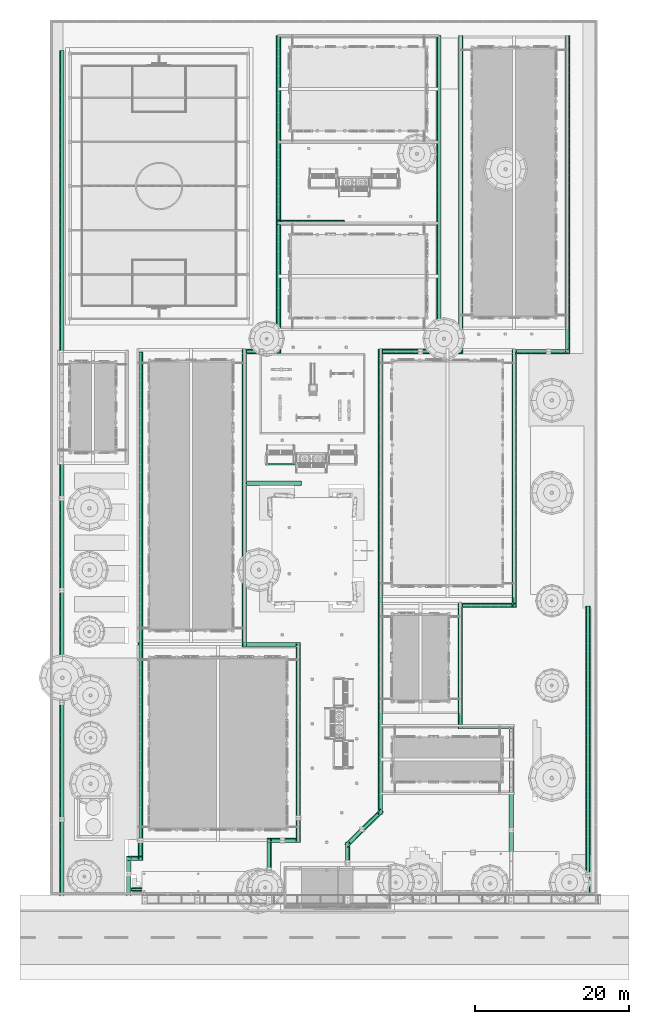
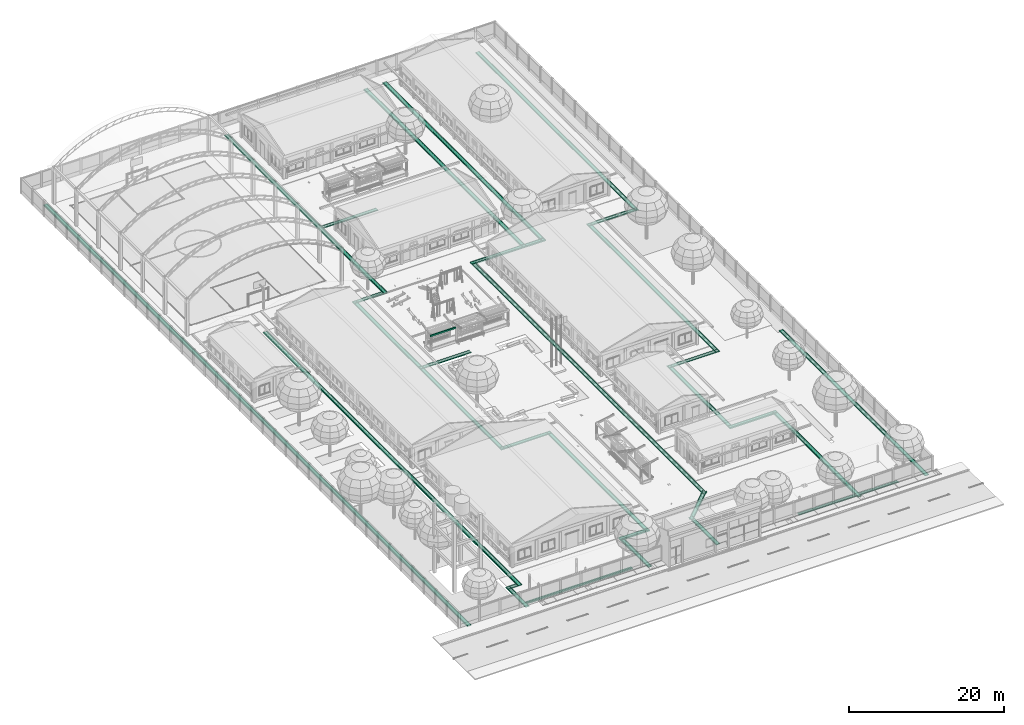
# One storey, part 98 of 166: 3 flow segments.
"""IFC2X3 building model written with IfcOpenShell, lengths in metres."""

from ifc_helpers import new_model, si_unit, origin, origin_with_axes, place, context, subcontext, project, spatial, faceted_brep, element, save


model = new_model("IFC2X3")

# Units and contexts
model_context = context("Model", 3, precision=1e-05, world=origin_with_axes())
body_context = subcontext(model_context, "Body", "Model", "MODEL_VIEW")
ifc_project = project(units=[si_unit("LENGTHUNIT", "METRE"), si_unit("AREAUNIT", "SQUARE_METRE"), si_unit("VOLUMEUNIT", "CUBIC_METRE"), si_unit("PLANEANGLEUNIT", "RADIAN")], contexts=[model_context])

# Site, building, storey
site_placement = place(None, origin_with_axes())
site = spatial("IfcSite", under=ifc_project, at=site_placement, Name="Predio Los Mangos - Morales, San Martín", CompositionType="ELEMENT")
building_placement = place(site_placement, origin())
building = spatial("IfcBuilding", under=site, at=building_placement, Name="Hogar de Refugio Temporal", CompositionType="ELEMENT")
storey_placement = place(building_placement, origin())
storey = spatial("IfcBuildingStorey", under=building, at=storey_placement, Name="NIVEL 1 (NPT +0.00)", CompositionType="ELEMENT", Elevation=0.0)

# Flow segments
flow_segment_1_placement = place(storey_placement, origin())
element("IfcFlowSegment", 1, at=flow_segment_1_placement, inside=storey, Name="oc01_canaleta", ObjectType="Canaleta", context=body_context, shape_type="Brep", body=[
    faceted_brep([(32.695, 73.8, 2.49), (32.695, 73.62, 2.49), (28.905, 73.62, 2.49), (28.905, 73.8, 2.49), (32.695, 73.8, 2.71), (28.905, 73.8, 2.71), (28.905, 73.62, 2.71), (32.695, 73.62, 2.71)], [[[0, 1, 2, 3]], [[4, 5, 6, 7]], [[0, 3, 5, 4]], [[3, 2, 6, 5]], [[2, 1, 7, 6]], [[1, 0, 4, 7]]]),
])
flow_segment_2_placement = place(storey_placement, origin())
element("IfcFlowSegment", 2, at=flow_segment_2_placement, inside=storey, Name="cunetas_muros", ObjectType="Cuneta de concreto b=0.40", context=body_context, shape_type="Brep", body=[
    faceted_brep([(70.899, 55.35, -0.02), (70.999, 55.35, -0.02), (70.999, 17.54, -0.02), (70.899, 17.54, -0.02), (70.899, 55.35, 0.092), (70.899, 17.54, 0.092), (70.999, 17.54, 0.092), (70.999, 55.35, 0.092), (70.399, 55.35, -0.02), (70.499, 55.35, -0.02), (70.499, 17.54, -0.02), (70.399, 17.54, -0.02), (70.399, 55.35, 0.092), (70.399, 17.54, 0.092), (70.499, 17.54, 0.092), (70.499, 55.35, 0.092), (68.255, 129.32, -0.02), (68.355, 129.32, -0.02), (68.355, 88.022, -0.02), (68.255, 88.022, -0.02), (68.255, 129.32, 0.092), (68.255, 88.022, 0.092), (68.355, 88.022, 0.092), (68.355, 129.32, 0.092), (67.755, 129.32, -0.02), (67.855, 129.32, -0.02), (67.855, 88.022, -0.02), (67.755, 88.022, -0.02), (67.755, 129.32, 0.092), (67.755, 88.022, 0.092), (67.855, 88.022, 0.092), (67.855, 129.32, 0.092), (68.355, 88.122, -0.02), (68.355, 88.022, -0.02), (60.848, 88.022, -0.02), (60.848, 88.122, -0.02), (68.355, 88.122, 0.092), (60.848, 88.122, 0.092), (60.848, 88.022, 0.092), (68.355, 88.022, 0.092), (68.355, 88.622, -0.02), (68.355, 88.522, -0.02), (60.848, 88.522, -0.02), (60.848, 88.622, -0.02), (68.355, 88.622, 0.092), (60.848, 88.622, 0.092), (60.848, 88.522, 0.092), (68.355, 88.522, 0.092), (61.348, 88.622, -0.02), (61.448, 88.622, -0.02), (61.448, 55.099, -0.02), (61.348, 55.099, -0.02), (61.348, 88.622, 0.092), (61.348, 55.099, 0.092), (61.448, 55.099, 0.092), (61.448, 88.622, 0.092), (60.848, 88.622, -0.02), (60.948, 88.622, -0.02), (60.948, 55.099, -0.02), (60.848, 55.099, -0.02), (60.848, 88.622, 0.092), (60.848, 55.099, 0.092), (60.948, 55.099, 0.092), (60.948, 88.622, 0.092), (61.448, 55.199, -0.02), (61.448, 55.099, -0.02), (53.838, 55.099, -0.02), (53.838, 55.199, -0.02), (61.448, 55.199, 0.092), (53.838, 55.199, 0.092), (53.838, 55.099, 0.092), (61.448, 55.099, 0.092), (61.448, 55.699, -0.02), (61.448, 55.599, -0.02), (53.838, 55.599, -0.02), (53.838, 55.699, -0.02), (61.448, 55.699, 0.092), (53.838, 55.699, 0.092), (53.838, 55.599, 0.092), (61.448, 55.599, 0.092), (54.338, 55.699, -0.02), (54.438, 55.699, -0.02), (54.438, 39.344, -0.02), (54.338, 39.344, -0.02), (54.338, 55.699, 0.092), (54.338, 39.344, 0.092), (54.438, 39.344, 0.092), (54.438, 55.699, 0.092), (53.838, 55.699, -0.02), (53.938, 55.699, -0.02), (53.938, 39.344, -0.02), (53.838, 39.344, -0.02), (53.838, 55.699, 0.092), (53.838, 39.344, 0.092), (53.938, 39.344, 0.092), (53.938, 55.699, 0.092), (53.838, 39.844, -0.02), (53.838, 39.944, -0.02), (61.037, 39.944, -0.02), (61.037, 39.844, -0.02), (53.838, 39.844, 0.158), (61.037, 39.844, 0.158), (61.037, 39.944, 0.158), (53.838, 39.944, 0.158), (53.838, 39.344, -0.02), (53.838, 39.444, -0.02), (61.037, 39.444, -0.02), (61.037, 39.344, -0.02), (53.838, 39.344, 0.158), (61.037, 39.344, 0.158), (61.037, 39.444, 0.158), (53.838, 39.444, 0.158), (60.937, 39.944, -0.02), (61.037, 39.944, -0.02), (61.037, 17.7, -0.02), (60.937, 17.7, -0.02), (60.937, 39.944, 0.158), (60.937, 17.7, 0.158), (61.037, 17.7, 0.158), (61.037, 39.944, 0.158), (60.437, 39.944, -0.02), (60.537, 39.944, -0.02), (60.537, 17.7, -0.02), (60.437, 17.7, -0.02), (60.437, 39.944, 0.158), (60.437, 17.7, 0.158), (60.537, 17.7, 0.158), (60.537, 39.944, 0.158), (54.372, 129.32, -0.02), (54.472, 129.32, -0.02), (54.472, 88.036, -0.02), (54.372, 88.036, -0.02), (54.372, 129.32, 0.158), (54.372, 88.036, 0.158), (54.472, 88.036, 0.158), (54.472, 129.32, 0.158), (53.872, 129.32, -0.02), (53.972, 129.32, -0.02), (53.972, 88.036, -0.02), (53.872, 88.036, -0.02), (53.872, 129.32, 0.158), (53.872, 88.036, 0.158), (53.972, 88.036, 0.158), (53.972, 129.32, 0.158), (54.472, 88.136, -0.02), (54.472, 88.036, -0.02), (51.1, 88.036, -0.02), (51.1, 88.136, -0.02), (54.472, 88.136, 0.158), (51.1, 88.136, 0.158), (51.1, 88.036, 0.158), (54.472, 88.036, 0.158), (54.472, 88.636, -0.02), (54.472, 88.536, -0.02), (51.1, 88.536, -0.02), (51.1, 88.636, -0.02), (54.472, 88.636, 0.158), (51.1, 88.636, 0.158), (51.1, 88.536, 0.158), (54.472, 88.536, 0.158), (51.542, 129.32, -0.02), (51.642, 129.32, -0.02), (51.642, 88.036, -0.02), (51.542, 88.036, -0.02), (51.542, 129.32, 0.158), (51.542, 88.036, 0.158), (51.642, 88.036, 0.158), (51.642, 129.32, 0.158), (51.042, 129.32, -0.02), (51.142, 129.32, -0.02), (51.142, 88.036, -0.02), (51.042, 88.036, -0.02), (51.042, 129.32, 0.158), (51.042, 88.036, 0.158), (51.142, 88.036, 0.158), (51.142, 129.32, 0.158), (51.642, 88.136, -0.02), (51.642, 88.036, -0.02), (43.455, 88.036, -0.02), (43.455, 88.136, -0.02), (51.642, 88.136, 0.158), (43.455, 88.136, 0.158), (43.455, 88.036, 0.158), (51.642, 88.036, 0.158), (51.642, 88.636, -0.02), (51.642, 88.536, -0.02), (43.455, 88.536, -0.02), (43.455, 88.636, -0.02), (51.642, 88.636, 0.158), (43.455, 88.636, 0.158), (43.455, 88.536, 0.158), (51.642, 88.536, 0.158), (43.955, 88.636, -0.02), (44.055, 88.636, -0.02), (44.055, 28.3, -0.02), (43.955, 28.3, -0.02), (43.955, 88.636, 0.092), (43.955, 28.3, 0.092), (44.055, 28.3, 0.092), (44.055, 88.636, 0.092), (43.455, 88.636, -0.02), (43.555, 88.636, -0.02), (43.555, 28.3, -0.02), (43.455, 28.3, -0.02), (43.455, 88.636, 0.092), (43.455, 28.3, 0.092), (43.555, 28.3, 0.092), (43.555, 88.636, 0.092), (44.1089, 28.669, -0.02), (44.1793, 28.5979, -0.02), (39.5119, 23.9757, -0.02), (39.4416, 24.0468, -0.02), (44.1089, 28.669, 0.092), (39.4416, 24.0468, 0.092), (39.5119, 23.9757, 0.092), (44.1793, 28.5979, 0.092), (43.7571, 29.0243, -0.02), (43.8274, 28.9532, -0.02), (39.1601, 24.331, -0.02), (39.0897, 24.4021, -0.02), (43.7571, 29.0243, 0.092), (39.0897, 24.4021, 0.092), (39.1601, 24.331, 0.092), (43.8274, 28.9532, 0.092), (39.714, 24.7, -0.02), (39.814, 24.7, -0.02), (39.814, 17.54, -0.02), (39.714, 17.54, -0.02), (39.714, 24.7, 0.092), (39.714, 17.54, 0.092), (39.814, 17.54, 0.092), (39.814, 24.7, 0.092), (39.214, 24.7, -0.02), (39.314, 24.7, -0.02), (39.314, 17.54, -0.02), (39.214, 17.54, -0.02), (39.214, 24.7, 0.092), (39.214, 17.54, 0.092), (39.314, 17.54, 0.092), (39.314, 24.7, 0.092), (30.734, 129.32, -0.02), (30.834, 129.32, -0.02), (30.834, 88.036, -0.02), (30.734, 88.036, -0.02), (30.734, 129.32, 0.158), (30.734, 88.036, 0.158), (30.834, 88.036, 0.158), (30.834, 129.32, 0.158), (30.234, 129.32, -0.02), (30.334, 129.32, -0.02), (30.334, 88.036, -0.02), (30.234, 88.036, -0.02), (30.234, 129.32, 0.158), (30.234, 88.036, 0.158), (30.334, 88.036, 0.158), (30.334, 129.32, 0.158), (30.834, 88.136, -0.02), (30.834, 88.036, -0.02), (25.809, 88.036, -0.02), (25.809, 88.136, -0.02), (30.834, 88.136, 0.092), (25.809, 88.136, 0.092), (25.809, 88.036, 0.092), (30.834, 88.036, 0.092), (30.834, 88.636, -0.02), (30.834, 88.536, -0.02), (25.809, 88.536, -0.02), (25.809, 88.636, -0.02), (30.834, 88.636, 0.092), (25.809, 88.636, 0.092), (25.809, 88.536, 0.092), (30.834, 88.536, 0.092), (26.309, 88.636, -0.02), (26.409, 88.636, -0.02), (26.409, 49.993, -0.02), (26.309, 49.993, -0.02), (26.309, 88.636, 0.092), (26.309, 49.993, 0.092), (26.409, 49.993, 0.092), (26.409, 88.636, 0.092), (25.809, 88.636, -0.02), (25.909, 88.636, -0.02), (25.909, 49.993, -0.02), (25.809, 49.993, -0.02), (25.809, 88.636, 0.092), (25.809, 49.993, 0.092), (25.909, 49.993, 0.092), (25.909, 88.636, 0.092), (25.809, 50.493, -0.02), (25.809, 50.593, -0.02), (33.42, 50.593, -0.02), (33.42, 50.493, -0.02), (25.809, 50.493, 0.092), (33.42, 50.493, 0.092), (33.42, 50.593, 0.092), (25.809, 50.593, 0.092), (25.809, 49.993, -0.02), (25.809, 50.093, -0.02), (33.42, 50.093, -0.02), (33.42, 49.993, -0.02), (25.809, 49.993, 0.092), (33.42, 49.993, 0.092), (33.42, 50.093, 0.092), (25.809, 50.093, 0.092), (33.32, 50.593, -0.02), (33.42, 50.593, -0.02), (33.42, 24.617, -0.02), (33.32, 24.617, -0.02), (33.32, 50.593, 0.092), (33.32, 24.617, 0.092), (33.42, 24.617, 0.092), (33.42, 50.593, 0.092), (32.82, 50.593, -0.02), (32.92, 50.593, -0.02), (32.92, 24.617, -0.02), (32.82, 24.617, -0.02), (32.82, 50.593, 0.092), (32.82, 24.617, 0.092), (32.92, 24.617, 0.092), (32.92, 50.593, 0.092), (33.42, 24.717, -0.02), (33.42, 24.617, -0.02), (29.029, 24.617, -0.02), (29.029, 24.717, -0.02), (33.42, 24.717, 0.158), (29.029, 24.717, 0.158), (29.029, 24.617, 0.158), (33.42, 24.617, 0.158), (33.42, 25.217, -0.02), (33.42, 25.117, -0.02), (29.029, 25.117, -0.02), (29.029, 25.217, -0.02), (33.42, 25.217, 0.158), (29.029, 25.217, 0.158), (29.029, 25.117, 0.158), (33.42, 25.117, 0.158), (29.529, 25.217, -0.02), (29.629, 25.217, -0.02), (29.629, 17.54, -0.02), (29.529, 17.54, -0.02), (29.529, 25.217, 0.092), (29.529, 17.54, 0.092), (29.629, 17.54, 0.092), (29.629, 25.217, 0.092), (29.029, 25.217, -0.02), (29.129, 25.217, -0.02), (29.129, 17.54, -0.02), (29.029, 17.54, -0.02), (29.029, 25.217, 0.092), (29.029, 17.54, 0.092), (29.129, 17.54, 0.092), (29.129, 25.217, 0.092), (39.1, 104.889, -0.02), (39.1, 104.789, -0.02), (30.3, 104.789, -0.02), (30.3, 104.889, -0.02), (39.1, 104.889, 0.092), (30.3, 104.889, 0.092), (30.3, 104.789, 0.092), (39.1, 104.789, 0.092), (39.1, 105.389, -0.02), (39.1, 105.289, -0.02), (30.3, 105.289, -0.02), (30.3, 105.389, -0.02), (39.1, 105.389, 0.092), (30.3, 105.389, 0.092), (30.3, 105.289, 0.092), (39.1, 105.289, 0.092), (33.5, 71.046, -0.02), (33.5, 70.946, -0.02), (25.9, 70.946, -0.02), (25.9, 71.046, -0.02), (33.5, 71.046, 0.092), (25.9, 71.046, 0.092), (25.9, 70.946, 0.092), (33.5, 70.946, 0.092), (33.5, 71.546, -0.02), (33.5, 71.446, -0.02), (25.9, 71.446, -0.02), (25.9, 71.546, -0.02), (33.5, 71.546, 0.092), (25.9, 71.546, 0.092), (25.9, 71.446, 0.092), (33.5, 71.446, 0.092), (12.839, 88.3, -0.02), (12.939, 88.3, -0.02), (12.939, 22.28, -0.02), (12.839, 22.28, -0.02), (12.839, 88.3, 0.158), (12.839, 22.28, 0.158), (12.939, 22.28, 0.158), (12.939, 88.3, 0.158), (12.339, 88.3, -0.02), (12.439, 88.3, -0.02), (12.439, 22.28, -0.02), (12.339, 22.28, -0.02), (12.339, 88.3, 0.158), (12.339, 22.28, 0.158), (12.439, 22.28, 0.158), (12.439, 88.3, 0.158), (12.939, 22.38, -0.02), (12.939, 22.28, -0.02), (10.812, 22.28, -0.02), (10.812, 22.38, -0.02), (12.939, 22.38, 0.092), (10.812, 22.38, 0.092), (10.812, 22.28, 0.092), (12.939, 22.28, 0.092), (12.939, 22.88, -0.02), (12.939, 22.78, -0.02), (10.812, 22.78, -0.02), (10.812, 22.88, -0.02), (12.939, 22.88, 0.092), (10.812, 22.88, 0.092), (10.812, 22.78, 0.092), (12.939, 22.78, 0.092), (11.312, 22.88, -0.02), (11.412, 22.88, -0.02), (11.412, 17.7, -0.02), (11.312, 17.7, -0.02), (11.312, 22.88, 0.092), (11.312, 17.7, 0.092), (11.412, 17.7, 0.092), (11.412, 22.88, 0.092), (10.812, 22.88, -0.02), (10.912, 22.88, -0.02), (10.912, 17.7, -0.02), (10.812, 17.7, -0.02), (10.812, 22.88, 0.092), (10.812, 17.7, 0.092), (10.912, 17.7, 0.092), (10.912, 22.88, 0.092), (2.63, 127.4, -0.02), (2.73, 127.4, -0.02), (2.73, 17.7, -0.02), (2.63, 17.7, -0.02), (2.63, 127.4, 0.158), (2.63, 17.7, 0.158), (2.73, 17.7, 0.158), (2.73, 127.4, 0.158), (2.13, 127.4, -0.02), (2.23, 127.4, -0.02), (2.23, 17.7, -0.02), (2.13, 17.7, -0.02), (2.13, 127.4, 0.158), (2.13, 17.7, 0.158), (2.23, 17.7, 0.158), (2.23, 127.4, 0.158), (11.413, 18.701, -0.02), (11.413, 18.801, -0.02), (27.239, 18.801, -0.02), (27.239, 18.701, -0.02), (11.413, 18.701, 0.092), (27.239, 18.701, 0.092), (27.239, 18.801, 0.092), (11.413, 18.801, 0.092), (11.413, 18.301, -0.02), (11.413, 18.401, -0.02), (27.239, 18.401, -0.02), (27.239, 18.301, -0.02), (11.413, 18.301, 0.092), (27.239, 18.301, 0.092), (27.239, 18.401, 0.092), (11.413, 18.401, 0.092), (51.903, 18.401, -0.02), (51.903, 18.501, -0.02), (60.435, 18.501, -0.02), (60.435, 18.401, -0.02), (51.903, 18.401, 0.092), (60.435, 18.401, 0.092), (60.435, 18.501, 0.092), (51.903, 18.501, 0.092), (51.903, 18.001, -0.02), (51.903, 18.101, -0.02), (60.435, 18.101, -0.02), (60.435, 18.001, -0.02), (51.903, 18.001, 0.092), (60.435, 18.001, 0.092), (60.435, 18.101, 0.092), (51.903, 18.101, 0.092), (61.035, 18.401, -0.02), (61.035, 18.501, -0.02), (66.759, 18.501, -0.02), (66.759, 18.401, -0.02), (61.035, 18.401, 0.092), (66.759, 18.401, 0.092), (66.759, 18.501, 0.092), (61.035, 18.501, 0.092), (61.035, 18.001, -0.02), (61.035, 18.101, -0.02), (66.759, 18.101, -0.02), (66.759, 18.001, -0.02), (61.035, 18.001, 0.092), (66.759, 18.001, 0.092), (66.759, 18.101, 0.092), (61.035, 18.101, 0.092)], [[[0, 1, 2, 3]], [[4, 5, 6, 7]], [[0, 3, 5, 4]], [[3, 2, 6, 5]], [[2, 1, 7, 6]], [[1, 0, 4, 7]], [[8, 9, 10, 11]], [[12, 13, 14, 15]], [[8, 11, 13, 12]], [[11, 10, 14, 13]], [[10, 9, 15, 14]], [[9, 8, 12, 15]], [[16, 17, 18, 19]], [[20, 21, 22, 23]], [[16, 19, 21, 20]], [[19, 18, 22, 21]], [[18, 17, 23, 22]], [[17, 16, 20, 23]], [[24, 25, 26, 27]], [[28, 29, 30, 31]], [[24, 27, 29, 28]], [[27, 26, 30, 29]], [[26, 25, 31, 30]], [[25, 24, 28, 31]], [[32, 33, 34, 35]], [[36, 37, 38, 39]], [[32, 35, 37, 36]], [[35, 34, 38, 37]], [[34, 33, 39, 38]], [[33, 32, 36, 39]], [[40, 41, 42, 43]], [[44, 45, 46, 47]], [[40, 43, 45, 44]], [[43, 42, 46, 45]], [[42, 41, 47, 46]], [[41, 40, 44, 47]], [[48, 49, 50, 51]], [[52, 53, 54, 55]], [[48, 51, 53, 52]], [[51, 50, 54, 53]], [[50, 49, 55, 54]], [[49, 48, 52, 55]], [[56, 57, 58, 59]], [[60, 61, 62, 63]], [[56, 59, 61, 60]], [[59, 58, 62, 61]], [[58, 57, 63, 62]], [[57, 56, 60, 63]], [[64, 65, 66, 67]], [[68, 69, 70, 71]], [[64, 67, 69, 68]], [[67, 66, 70, 69]], [[66, 65, 71, 70]], [[65, 64, 68, 71]], [[72, 73, 74, 75]], [[76, 77, 78, 79]], [[72, 75, 77, 76]], [[75, 74, 78, 77]], [[74, 73, 79, 78]], [[73, 72, 76, 79]], [[80, 81, 82, 83]], [[84, 85, 86, 87]], [[80, 83, 85, 84]], [[83, 82, 86, 85]], [[82, 81, 87, 86]], [[81, 80, 84, 87]], [[88, 89, 90, 91]], [[92, 93, 94, 95]], [[88, 91, 93, 92]], [[91, 90, 94, 93]], [[90, 89, 95, 94]], [[89, 88, 92, 95]], [[96, 97, 98, 99]], [[100, 101, 102, 103]], [[96, 99, 101, 100]], [[99, 98, 102, 101]], [[98, 97, 103, 102]], [[97, 96, 100, 103]], [[104, 105, 106, 107]], [[108, 109, 110, 111]], [[104, 107, 109, 108]], [[107, 106, 110, 109]], [[106, 105, 111, 110]], [[105, 104, 108, 111]], [[112, 113, 114, 115]], [[116, 117, 118, 119]], [[112, 115, 117, 116]], [[115, 114, 118, 117]], [[114, 113, 119, 118]], [[113, 112, 116, 119]], [[120, 121, 122, 123]], [[124, 125, 126, 127]], [[120, 123, 125, 124]], [[123, 122, 126, 125]], [[122, 121, 127, 126]], [[121, 120, 124, 127]], [[128, 129, 130, 131]], [[132, 133, 134, 135]], [[128, 131, 133, 132]], [[131, 130, 134, 133]], [[130, 129, 135, 134]], [[129, 128, 132, 135]], [[136, 137, 138, 139]], [[140, 141, 142, 143]], [[136, 139, 141, 140]], [[139, 138, 142, 141]], [[138, 137, 143, 142]], [[137, 136, 140, 143]], [[144, 145, 146, 147]], [[148, 149, 150, 151]], [[144, 147, 149, 148]], [[147, 146, 150, 149]], [[146, 145, 151, 150]], [[145, 144, 148, 151]], [[152, 153, 154, 155]], [[156, 157, 158, 159]], [[152, 155, 157, 156]], [[155, 154, 158, 157]], [[154, 153, 159, 158]], [[153, 152, 156, 159]], [[160, 161, 162, 163]], [[164, 165, 166, 167]], [[160, 163, 165, 164]], [[163, 162, 166, 165]], [[162, 161, 167, 166]], [[161, 160, 164, 167]], [[168, 169, 170, 171]], [[172, 173, 174, 175]], [[168, 171, 173, 172]], [[171, 170, 174, 173]], [[170, 169, 175, 174]], [[169, 168, 172, 175]], [[176, 177, 178, 179]], [[180, 181, 182, 183]], [[176, 179, 181, 180]], [[179, 178, 182, 181]], [[178, 177, 183, 182]], [[177, 176, 180, 183]], [[184, 185, 186, 187]], [[188, 189, 190, 191]], [[184, 187, 189, 188]], [[187, 186, 190, 189]], [[186, 185, 191, 190]], [[185, 184, 188, 191]], [[192, 193, 194, 195]], [[196, 197, 198, 199]], [[192, 195, 197, 196]], [[195, 194, 198, 197]], [[194, 193, 199, 198]], [[193, 192, 196, 199]], [[200, 201, 202, 203]], [[204, 205, 206, 207]], [[200, 203, 205, 204]], [[203, 202, 206, 205]], [[202, 201, 207, 206]], [[201, 200, 204, 207]], [[208, 209, 210, 211]], [[212, 213, 214, 215]], [[208, 211, 213, 212]], [[211, 210, 214, 213]], [[210, 209, 215, 214]], [[209, 208, 212, 215]], [[216, 217, 218, 219]], [[220, 221, 222, 223]], [[216, 219, 221, 220]], [[219, 218, 222, 221]], [[218, 217, 223, 222]], [[217, 216, 220, 223]], [[224, 225, 226, 227]], [[228, 229, 230, 231]], [[224, 227, 229, 228]], [[227, 226, 230, 229]], [[226, 225, 231, 230]], [[225, 224, 228, 231]], [[232, 233, 234, 235]], [[236, 237, 238, 239]], [[232, 235, 237, 236]], [[235, 234, 238, 237]], [[234, 233, 239, 238]], [[233, 232, 236, 239]], [[240, 241, 242, 243]], [[244, 245, 246, 247]], [[240, 243, 245, 244]], [[243, 242, 246, 245]], [[242, 241, 247, 246]], [[241, 240, 244, 247]], [[248, 249, 250, 251]], [[252, 253, 254, 255]], [[248, 251, 253, 252]], [[251, 250, 254, 253]], [[250, 249, 255, 254]], [[249, 248, 252, 255]], [[256, 257, 258, 259]], [[260, 261, 262, 263]], [[256, 259, 261, 260]], [[259, 258, 262, 261]], [[258, 257, 263, 262]], [[257, 256, 260, 263]], [[264, 265, 266, 267]], [[268, 269, 270, 271]], [[264, 267, 269, 268]], [[267, 266, 270, 269]], [[266, 265, 271, 270]], [[265, 264, 268, 271]], [[272, 273, 274, 275]], [[276, 277, 278, 279]], [[272, 275, 277, 276]], [[275, 274, 278, 277]], [[274, 273, 279, 278]], [[273, 272, 276, 279]], [[280, 281, 282, 283]], [[284, 285, 286, 287]], [[280, 283, 285, 284]], [[283, 282, 286, 285]], [[282, 281, 287, 286]], [[281, 280, 284, 287]], [[288, 289, 290, 291]], [[292, 293, 294, 295]], [[288, 291, 293, 292]], [[291, 290, 294, 293]], [[290, 289, 295, 294]], [[289, 288, 292, 295]], [[296, 297, 298, 299]], [[300, 301, 302, 303]], [[296, 299, 301, 300]], [[299, 298, 302, 301]], [[298, 297, 303, 302]], [[297, 296, 300, 303]], [[304, 305, 306, 307]], [[308, 309, 310, 311]], [[304, 307, 309, 308]], [[307, 306, 310, 309]], [[306, 305, 311, 310]], [[305, 304, 308, 311]], [[312, 313, 314, 315]], [[316, 317, 318, 319]], [[312, 315, 317, 316]], [[315, 314, 318, 317]], [[314, 313, 319, 318]], [[313, 312, 316, 319]], [[320, 321, 322, 323]], [[324, 325, 326, 327]], [[320, 323, 325, 324]], [[323, 322, 326, 325]], [[322, 321, 327, 326]], [[321, 320, 324, 327]], [[328, 329, 330, 331]], [[332, 333, 334, 335]], [[328, 331, 333, 332]], [[331, 330, 334, 333]], [[330, 329, 335, 334]], [[329, 328, 332, 335]], [[336, 337, 338, 339]], [[340, 341, 342, 343]], [[336, 339, 341, 340]], [[339, 338, 342, 341]], [[338, 337, 343, 342]], [[337, 336, 340, 343]], [[344, 345, 346, 347]], [[348, 349, 350, 351]], [[344, 347, 349, 348]], [[347, 346, 350, 349]], [[346, 345, 351, 350]], [[345, 344, 348, 351]], [[352, 353, 354, 355]], [[356, 357, 358, 359]], [[352, 355, 357, 356]], [[355, 354, 358, 357]], [[354, 353, 359, 358]], [[353, 352, 356, 359]], [[360, 361, 362, 363]], [[364, 365, 366, 367]], [[360, 363, 365, 364]], [[363, 362, 366, 365]], [[362, 361, 367, 366]], [[361, 360, 364, 367]], [[368, 369, 370, 371]], [[372, 373, 374, 375]], [[368, 371, 373, 372]], [[371, 370, 374, 373]], [[370, 369, 375, 374]], [[369, 368, 372, 375]], [[376, 377, 378, 379]], [[380, 381, 382, 383]], [[376, 379, 381, 380]], [[379, 378, 382, 381]], [[378, 377, 383, 382]], [[377, 376, 380, 383]], [[384, 385, 386, 387]], [[388, 389, 390, 391]], [[384, 387, 389, 388]], [[387, 386, 390, 389]], [[386, 385, 391, 390]], [[385, 384, 388, 391]], [[392, 393, 394, 395]], [[396, 397, 398, 399]], [[392, 395, 397, 396]], [[395, 394, 398, 397]], [[394, 393, 399, 398]], [[393, 392, 396, 399]], [[400, 401, 402, 403]], [[404, 405, 406, 407]], [[400, 403, 405, 404]], [[403, 402, 406, 405]], [[402, 401, 407, 406]], [[401, 400, 404, 407]], [[408, 409, 410, 411]], [[412, 413, 414, 415]], [[408, 411, 413, 412]], [[411, 410, 414, 413]], [[410, 409, 415, 414]], [[409, 408, 412, 415]], [[416, 417, 418, 419]], [[420, 421, 422, 423]], [[416, 419, 421, 420]], [[419, 418, 422, 421]], [[418, 417, 423, 422]], [[417, 416, 420, 423]], [[424, 425, 426, 427]], [[428, 429, 430, 431]], [[424, 427, 429, 428]], [[427, 426, 430, 429]], [[426, 425, 431, 430]], [[425, 424, 428, 431]], [[432, 433, 434, 435]], [[436, 437, 438, 439]], [[432, 435, 437, 436]], [[435, 434, 438, 437]], [[434, 433, 439, 438]], [[433, 432, 436, 439]], [[440, 441, 442, 443]], [[444, 445, 446, 447]], [[440, 443, 445, 444]], [[443, 442, 446, 445]], [[442, 441, 447, 446]], [[441, 440, 444, 447]], [[448, 449, 450, 451]], [[452, 453, 454, 455]], [[448, 451, 453, 452]], [[451, 450, 454, 453]], [[450, 449, 455, 454]], [[449, 448, 452, 455]], [[456, 457, 458, 459]], [[460, 461, 462, 463]], [[456, 459, 461, 460]], [[459, 458, 462, 461]], [[458, 457, 463, 462]], [[457, 456, 460, 463]], [[464, 465, 466, 467]], [[468, 469, 470, 471]], [[464, 467, 469, 468]], [[467, 466, 470, 469]], [[466, 465, 471, 470]], [[465, 464, 468, 471]], [[472, 473, 474, 475]], [[476, 477, 478, 479]], [[472, 475, 477, 476]], [[475, 474, 478, 477]], [[474, 473, 479, 478]], [[473, 472, 476, 479]], [[480, 481, 482, 483]], [[484, 485, 486, 487]], [[480, 483, 485, 484]], [[483, 482, 486, 485]], [[482, 481, 487, 486]], [[481, 480, 484, 487]], [[488, 489, 490, 491]], [[492, 493, 494, 495]], [[488, 491, 493, 492]], [[491, 490, 494, 493]], [[490, 489, 495, 494]], [[489, 488, 492, 495]]]),
])
flow_segment_3_placement = place(storey_placement, origin())
element("IfcFlowSegment", 3, at=flow_segment_3_placement, inside=storey, Name="cunetas_fondo", ObjectType="Cuneta de concreto b=0.40", context=body_context, shape_type="Brep", body=[
    faceted_brep([(70.499, 55.35, -0.02), (70.899, 55.35, -0.02), (70.899, 17.54, -0.02), (70.499, 17.54, -0.02), (70.499, 55.35, 0.062), (70.499, 17.54, 0.062), (70.899, 17.54, 0.062), (70.899, 55.35, 0.062), (67.855, 129.32, -0.02), (68.255, 129.32, -0.02), (68.255, 88.022, -0.02), (67.855, 88.022, -0.02), (67.855, 129.32, 0.062), (67.855, 88.022, 0.062), (68.255, 88.022, 0.062), (68.255, 129.32, 0.062), (68.355, 88.522, -0.02), (68.355, 88.122, -0.02), (60.848, 88.122, -0.02), (60.848, 88.522, -0.02), (68.355, 88.522, 0.062), (60.848, 88.522, 0.062), (60.848, 88.122, 0.062), (68.355, 88.122, 0.062), (60.948, 88.622, -0.02), (61.348, 88.622, -0.02), (61.348, 55.099, -0.02), (60.948, 55.099, -0.02), (60.948, 88.622, 0.062), (60.948, 55.099, 0.062), (61.348, 55.099, 0.062), (61.348, 88.622, 0.062), (61.448, 55.599, -0.02), (61.448, 55.199, -0.02), (53.838, 55.199, -0.02), (53.838, 55.599, -0.02), (61.448, 55.599, 0.062), (53.838, 55.599, 0.062), (53.838, 55.199, 0.062), (61.448, 55.199, 0.062), (53.938, 55.699, -0.02), (54.338, 55.699, -0.02), (54.338, 39.344, -0.02), (53.938, 39.344, -0.02), (53.938, 55.699, 0.062), (53.938, 39.344, 0.062), (54.338, 39.344, 0.062), (54.338, 55.699, 0.062), (53.838, 39.444, -0.02), (53.838, 39.844, -0.02), (61.037, 39.844, -0.02), (61.037, 39.444, -0.02), (53.838, 39.444, 0.128), (61.037, 39.444, 0.128), (61.037, 39.844, 0.128), (53.838, 39.844, 0.128), (60.537, 39.944, -0.02), (60.937, 39.944, -0.02), (60.937, 17.7, -0.02), (60.537, 17.7, -0.02), (60.537, 39.944, 0.128), (60.537, 17.7, 0.128), (60.937, 17.7, 0.128), (60.937, 39.944, 0.128), (53.972, 129.32, -0.02), (54.372, 129.32, -0.02), (54.372, 88.036, -0.02), (53.972, 88.036, -0.02), (53.972, 129.32, 0.128), (53.972, 88.036, 0.128), (54.372, 88.036, 0.128), (54.372, 129.32, 0.128), (54.472, 88.536, -0.02), (54.472, 88.136, -0.02), (51.1, 88.136, -0.02), (51.1, 88.536, -0.02), (54.472, 88.536, 0.128), (51.1, 88.536, 0.128), (51.1, 88.136, 0.128), (54.472, 88.136, 0.128), (51.142, 129.32, -0.02), (51.542, 129.32, -0.02), (51.542, 88.036, -0.02), (51.142, 88.036, -0.02), (51.142, 129.32, 0.128), (51.142, 88.036, 0.128), (51.542, 88.036, 0.128), (51.542, 129.32, 0.128), (51.642, 88.536, -0.02), (51.642, 88.136, -0.02), (43.455, 88.136, -0.02), (43.455, 88.536, -0.02), (51.642, 88.536, 0.128), (43.455, 88.536, 0.128), (43.455, 88.136, 0.128), (51.642, 88.136, 0.128), (43.555, 88.636, -0.02), (43.955, 88.636, -0.02), (43.955, 28.3, -0.02), (43.555, 28.3, -0.02), (43.555, 88.636, 0.062), (43.555, 28.3, 0.062), (43.955, 28.3, 0.062), (43.955, 88.636, 0.062), (43.8274, 28.9532, -0.02), (44.1089, 28.669, -0.02), (39.4416, 24.0468, -0.02), (39.1601, 24.331, -0.02), (43.8274, 28.9532, 0.062), (39.1601, 24.331, 0.062), (39.4416, 24.0468, 0.062), (44.1089, 28.669, 0.062), (39.314, 24.7, -0.02), (39.714, 24.7, -0.02), (39.714, 17.54, -0.02), (39.314, 17.54, -0.02), (39.314, 24.7, 0.062), (39.314, 17.54, 0.062), (39.714, 17.54, 0.062), (39.714, 24.7, 0.062), (30.334, 129.32, -0.02), (30.734, 129.32, -0.02), (30.734, 88.036, -0.02), (30.334, 88.036, -0.02), (30.334, 129.32, 0.128), (30.334, 88.036, 0.128), (30.734, 88.036, 0.128), (30.734, 129.32, 0.128), (30.834, 88.536, -0.02), (30.834, 88.136, -0.02), (25.809, 88.136, -0.02), (25.809, 88.536, -0.02), (30.834, 88.536, 0.062), (25.809, 88.536, 0.062), (25.809, 88.136, 0.062), (30.834, 88.136, 0.062), (25.909, 88.636, -0.02), (26.309, 88.636, -0.02), (26.309, 49.993, -0.02), (25.909, 49.993, -0.02), (25.909, 88.636, 0.062), (25.909, 49.993, 0.062), (26.309, 49.993, 0.062), (26.309, 88.636, 0.062), (25.809, 50.093, -0.02), (25.809, 50.493, -0.02), (33.42, 50.493, -0.02), (33.42, 50.093, -0.02), (25.809, 50.093, 0.062), (33.42, 50.093, 0.062), (33.42, 50.493, 0.062), (25.809, 50.493, 0.062), (32.92, 50.593, -0.02), (33.32, 50.593, -0.02), (33.32, 24.617, -0.02), (32.92, 24.617, -0.02), (32.92, 50.593, 0.062), (32.92, 24.617, 0.062), (33.32, 24.617, 0.062), (33.32, 50.593, 0.062), (33.42, 25.117, -0.02), (33.42, 24.717, -0.02), (29.029, 24.717, -0.02), (29.029, 25.117, -0.02), (33.42, 25.117, 0.128), (29.029, 25.117, 0.128), (29.029, 24.717, 0.128), (33.42, 24.717, 0.128), (29.129, 25.217, -0.02), (29.529, 25.217, -0.02), (29.529, 17.54, -0.02), (29.129, 17.54, -0.02), (29.129, 25.217, 0.062), (29.129, 17.54, 0.062), (29.529, 17.54, 0.062), (29.529, 25.217, 0.062), (39.1, 105.289, -0.02), (39.1, 104.889, -0.02), (30.3, 104.889, -0.02), (30.3, 105.289, -0.02), (39.1, 105.289, 0.062), (30.3, 105.289, 0.062), (30.3, 104.889, 0.062), (39.1, 104.889, 0.062), (33.5, 71.446, -0.02), (33.5, 71.046, -0.02), (25.9, 71.046, -0.02), (25.9, 71.446, -0.02), (33.5, 71.446, 0.062), (25.9, 71.446, 0.062), (25.9, 71.046, 0.062), (33.5, 71.046, 0.062), (12.439, 88.3, -0.02), (12.839, 88.3, -0.02), (12.839, 22.28, -0.02), (12.439, 22.28, -0.02), (12.439, 88.3, 0.128), (12.439, 22.28, 0.128), (12.839, 22.28, 0.128), (12.839, 88.3, 0.128), (12.939, 22.78, -0.02), (12.939, 22.38, -0.02), (10.812, 22.38, -0.02), (10.812, 22.78, -0.02), (12.939, 22.78, 0.062), (10.812, 22.78, 0.062), (10.812, 22.38, 0.062), (12.939, 22.38, 0.062), (10.912, 22.88, -0.02), (11.312, 22.88, -0.02), (11.312, 17.7, -0.02), (10.912, 17.7, -0.02), (10.912, 22.88, 0.062), (10.912, 17.7, 0.062), (11.312, 17.7, 0.062), (11.312, 22.88, 0.062), (2.23, 127.4, -0.02), (2.63, 127.4, -0.02), (2.63, 17.7, -0.02), (2.23, 17.7, -0.02), (2.23, 127.4, 0.128), (2.23, 17.7, 0.128), (2.63, 17.7, 0.128), (2.63, 127.4, 0.128), (11.413, 18.401, -0.02), (11.413, 18.701, -0.02), (27.239, 18.701, -0.02), (27.239, 18.401, -0.02), (11.413, 18.401, 0.062), (27.239, 18.401, 0.062), (27.239, 18.701, 0.062), (11.413, 18.701, 0.062), (51.903, 18.101, -0.02), (51.903, 18.401, -0.02), (60.435, 18.401, -0.02), (60.435, 18.101, -0.02), (51.903, 18.101, 0.062), (60.435, 18.101, 0.062), (60.435, 18.401, 0.062), (51.903, 18.401, 0.062), (61.035, 18.101, -0.02), (61.035, 18.401, -0.02), (66.759, 18.401, -0.02), (66.759, 18.101, -0.02), (61.035, 18.101, 0.062), (66.759, 18.101, 0.062), (66.759, 18.401, 0.062), (61.035, 18.401, 0.062)], [[[0, 1, 2, 3]], [[4, 5, 6, 7]], [[0, 3, 5, 4]], [[3, 2, 6, 5]], [[2, 1, 7, 6]], [[1, 0, 4, 7]], [[8, 9, 10, 11]], [[12, 13, 14, 15]], [[8, 11, 13, 12]], [[11, 10, 14, 13]], [[10, 9, 15, 14]], [[9, 8, 12, 15]], [[16, 17, 18, 19]], [[20, 21, 22, 23]], [[16, 19, 21, 20]], [[19, 18, 22, 21]], [[18, 17, 23, 22]], [[17, 16, 20, 23]], [[24, 25, 26, 27]], [[28, 29, 30, 31]], [[24, 27, 29, 28]], [[27, 26, 30, 29]], [[26, 25, 31, 30]], [[25, 24, 28, 31]], [[32, 33, 34, 35]], [[36, 37, 38, 39]], [[32, 35, 37, 36]], [[35, 34, 38, 37]], [[34, 33, 39, 38]], [[33, 32, 36, 39]], [[40, 41, 42, 43]], [[44, 45, 46, 47]], [[40, 43, 45, 44]], [[43, 42, 46, 45]], [[42, 41, 47, 46]], [[41, 40, 44, 47]], [[48, 49, 50, 51]], [[52, 53, 54, 55]], [[48, 51, 53, 52]], [[51, 50, 54, 53]], [[50, 49, 55, 54]], [[49, 48, 52, 55]], [[56, 57, 58, 59]], [[60, 61, 62, 63]], [[56, 59, 61, 60]], [[59, 58, 62, 61]], [[58, 57, 63, 62]], [[57, 56, 60, 63]], [[64, 65, 66, 67]], [[68, 69, 70, 71]], [[64, 67, 69, 68]], [[67, 66, 70, 69]], [[66, 65, 71, 70]], [[65, 64, 68, 71]], [[72, 73, 74, 75]], [[76, 77, 78, 79]], [[72, 75, 77, 76]], [[75, 74, 78, 77]], [[74, 73, 79, 78]], [[73, 72, 76, 79]], [[80, 81, 82, 83]], [[84, 85, 86, 87]], [[80, 83, 85, 84]], [[83, 82, 86, 85]], [[82, 81, 87, 86]], [[81, 80, 84, 87]], [[88, 89, 90, 91]], [[92, 93, 94, 95]], [[88, 91, 93, 92]], [[91, 90, 94, 93]], [[90, 89, 95, 94]], [[89, 88, 92, 95]], [[96, 97, 98, 99]], [[100, 101, 102, 103]], [[96, 99, 101, 100]], [[99, 98, 102, 101]], [[98, 97, 103, 102]], [[97, 96, 100, 103]], [[104, 105, 106, 107]], [[108, 109, 110, 111]], [[104, 107, 109, 108]], [[107, 106, 110, 109]], [[106, 105, 111, 110]], [[105, 104, 108, 111]], [[112, 113, 114, 115]], [[116, 117, 118, 119]], [[112, 115, 117, 116]], [[115, 114, 118, 117]], [[114, 113, 119, 118]], [[113, 112, 116, 119]], [[120, 121, 122, 123]], [[124, 125, 126, 127]], [[120, 123, 125, 124]], [[123, 122, 126, 125]], [[122, 121, 127, 126]], [[121, 120, 124, 127]], [[128, 129, 130, 131]], [[132, 133, 134, 135]], [[128, 131, 133, 132]], [[131, 130, 134, 133]], [[130, 129, 135, 134]], [[129, 128, 132, 135]], [[136, 137, 138, 139]], [[140, 141, 142, 143]], [[136, 139, 141, 140]], [[139, 138, 142, 141]], [[138, 137, 143, 142]], [[137, 136, 140, 143]], [[144, 145, 146, 147]], [[148, 149, 150, 151]], [[144, 147, 149, 148]], [[147, 146, 150, 149]], [[146, 145, 151, 150]], [[145, 144, 148, 151]], [[152, 153, 154, 155]], [[156, 157, 158, 159]], [[152, 155, 157, 156]], [[155, 154, 158, 157]], [[154, 153, 159, 158]], [[153, 152, 156, 159]], [[160, 161, 162, 163]], [[164, 165, 166, 167]], [[160, 163, 165, 164]], [[163, 162, 166, 165]], [[162, 161, 167, 166]], [[161, 160, 164, 167]], [[168, 169, 170, 171]], [[172, 173, 174, 175]], [[168, 171, 173, 172]], [[171, 170, 174, 173]], [[170, 169, 175, 174]], [[169, 168, 172, 175]], [[176, 177, 178, 179]], [[180, 181, 182, 183]], [[176, 179, 181, 180]], [[179, 178, 182, 181]], [[178, 177, 183, 182]], [[177, 176, 180, 183]], [[184, 185, 186, 187]], [[188, 189, 190, 191]], [[184, 187, 189, 188]], [[187, 186, 190, 189]], [[186, 185, 191, 190]], [[185, 184, 188, 191]], [[192, 193, 194, 195]], [[196, 197, 198, 199]], [[192, 195, 197, 196]], [[195, 194, 198, 197]], [[194, 193, 199, 198]], [[193, 192, 196, 199]], [[200, 201, 202, 203]], [[204, 205, 206, 207]], [[200, 203, 205, 204]], [[203, 202, 206, 205]], [[202, 201, 207, 206]], [[201, 200, 204, 207]], [[208, 209, 210, 211]], [[212, 213, 214, 215]], [[208, 211, 213, 212]], [[211, 210, 214, 213]], [[210, 209, 215, 214]], [[209, 208, 212, 215]], [[216, 217, 218, 219]], [[220, 221, 222, 223]], [[216, 219, 221, 220]], [[219, 218, 222, 221]], [[218, 217, 223, 222]], [[217, 216, 220, 223]], [[224, 225, 226, 227]], [[228, 229, 230, 231]], [[224, 227, 229, 228]], [[227, 226, 230, 229]], [[226, 225, 231, 230]], [[225, 224, 228, 231]], [[232, 233, 234, 235]], [[236, 237, 238, 239]], [[232, 235, 237, 236]], [[235, 234, 238, 237]], [[234, 233, 239, 238]], [[233, 232, 236, 239]], [[240, 241, 242, 243]], [[244, 245, 246, 247]], [[240, 243, 245, 244]], [[243, 242, 246, 245]], [[242, 241, 247, 246]], [[241, 240, 244, 247]]]),
])

save(model, "model.ifc")
